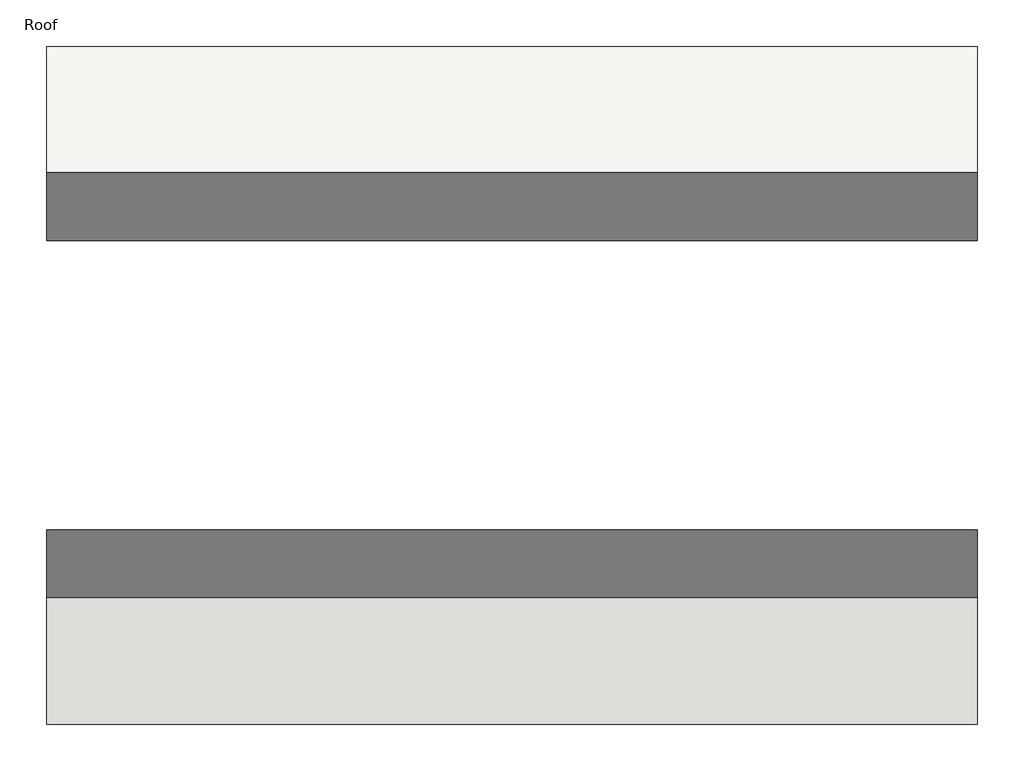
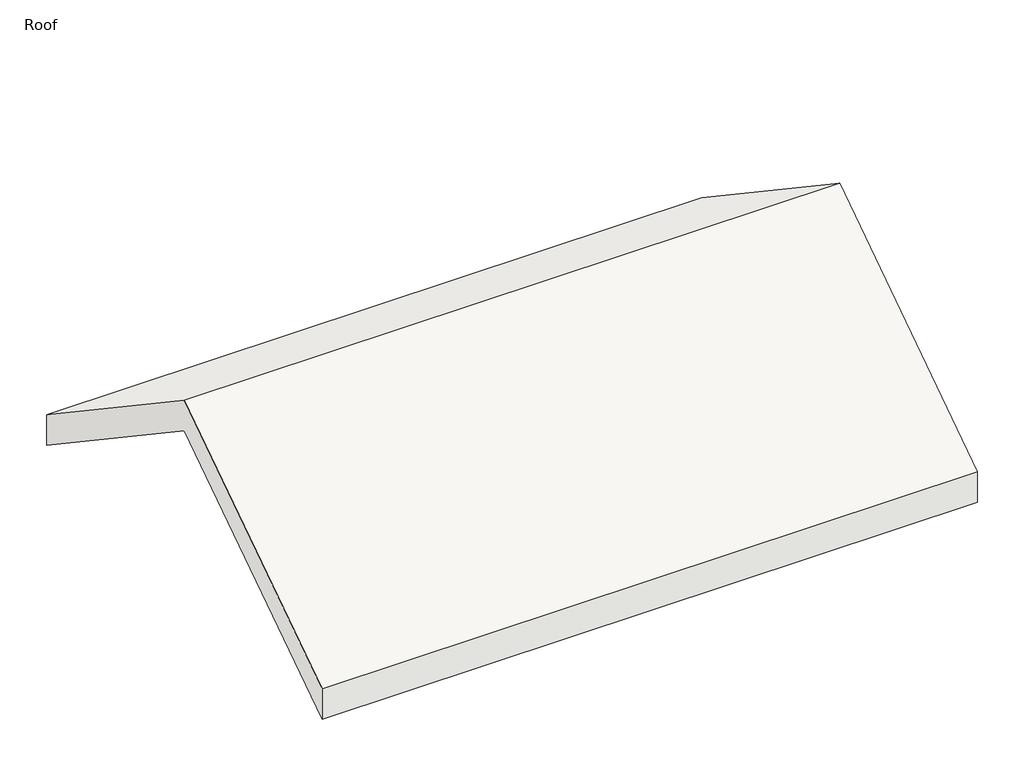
# One storey: 1 roof.
"""IFC4 building model written with IfcOpenShell, lengths in millimetres."""

from ifc_helpers import new_model, si_unit, frame, origin, place, context, project, spatial, polyline, outline, extrude, element, save

model = new_model("IFC4")

# Units and contexts
model_context = context("Model", 3, world=origin())
ifc_project = project(units=[si_unit("LENGTHUNIT", "METRE", prefix="MILLI")], contexts=[model_context])

# Site, building, storey
site = spatial("IfcSite", under=ifc_project)
building = spatial("IfcBuilding", under=site)
storey = spatial("IfcBuildingStorey", under=building, Name="Roof", Elevation=8000.0)

# Roof
placement = place(None, origin())
element("IfcRoof", 1, ObjectType="Generic 450mm", at=placement, inside=storey, context=model_context, shape_type="SweptSolid", body=[
    extrude(outline(polyline([(-3075.0865513, 8195.2776552), (948.9134487, 10891.7052498), (4972.9134487, 8195.2776552), (4972.9134487, 7653.5898385), (948.9134487, 10350.0174331), (-3075.0865513, 7653.5898385), (-3075.0865513, 8195.2776552)])), frame((-4208.0128661, 0.0, 0.0), z_axis=(1.0, 0.0, 0.0), x_axis=(0.0, 1.0, 0.0)), (0.0, 0.0, 1.0), 11048.0),
])

save(model, "model.ifc")
